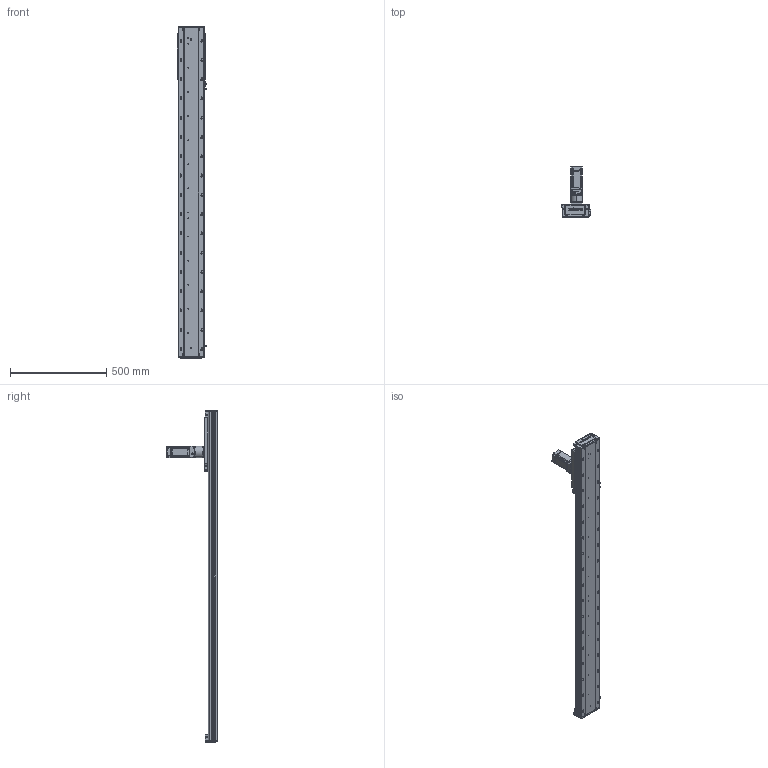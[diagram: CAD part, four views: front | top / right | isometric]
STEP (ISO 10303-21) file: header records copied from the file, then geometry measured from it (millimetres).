
FILE_DESCRIPTION (( 'STEP AP203' ), '1' );
FILE_NAME ('RY140-C-250-UK.SLDASM_1350.step', '2022-03-12T01:59:09', ( '' ), ( '' ), 'SwSTEP 2.0', 'SolidWorks 2016', '' );
FILE_SCHEMA (( 'CONFIG_CONTROL_DESIGN' ));
Length unit declared in the file: millimetre
Products named in the file (12): RY140-C-250-UK.SLDASM_1350; RY120外置感应片(140共用）; 覜茼ん672; RY140-絳寢EGH15-300-MK_1350; RY140-喘沭裔啣; 60ZDF珨撰俋倛芞T1 200W M4; RY140-喘沭賑輸; 絳寢賑輸EGH15; 140蚥薯蝶輸; RY140-喘謫萇儂覃誹啣; RY140-300齿条模组型材底座_1350; 15
Assembly tree (21 placements, depth 2):
  RY140-C-250-UK.SLDASM_1350
    RY140-300齿条模组型材底座_1350
    RY140-絳寢EGH15-300-MK_1350  x2
    絳寢賑輸EGH15  x6
    RY140-喘沭裔啣  x2
    覜茼ん672  x3
    RY140-喘沭賑輸
    RY120外置感应片(140共用）
    RY140-喘謫萇儂覃誹啣
    140蚥薯蝶輸  x2
    60ZDF珨撰俋倛芞T1 200W M4
    15
Bounding box: 153.7 x 263.5 x 1722 mm (x, y, z)
Volume: 5903346.4 mm3; surface area: 1574779.3 mm2
Topology: 21 solids, 21 shells, 3604 faces, 9616 edges, 6214 vertices
Faces by surface type: plane 1666, cylinder 1632, cone 260, bspline 46
Entity records: 81965 total; most frequent: CARTESIAN_POINT 18091, DIRECTION 13005, ORIENTED_EDGE 12998, EDGE_CURVE 6499, AXIS2_PLACEMENT_3D 4665, VERTEX_POINT 4255, VECTOR 3675, LINE 3675
